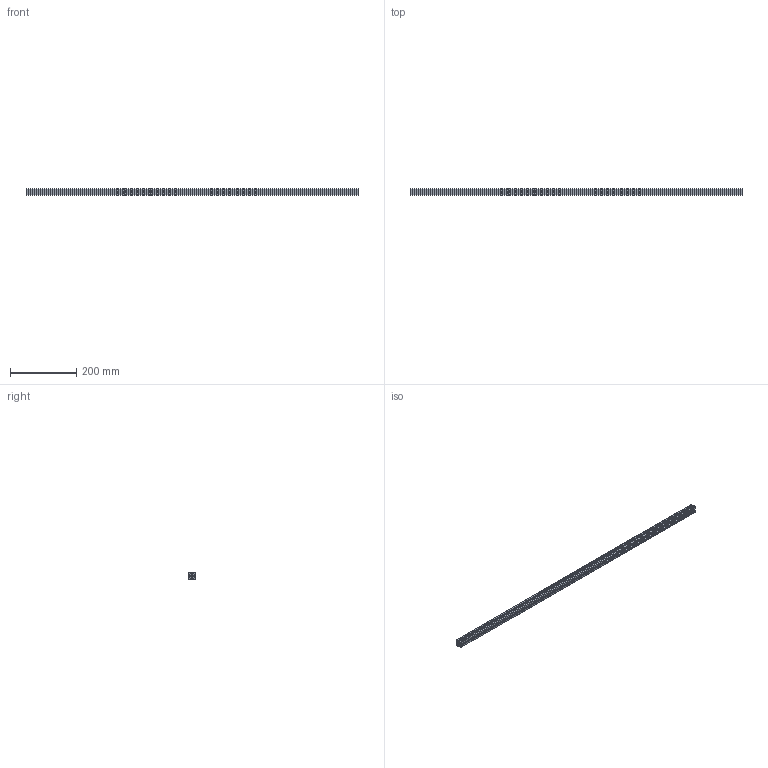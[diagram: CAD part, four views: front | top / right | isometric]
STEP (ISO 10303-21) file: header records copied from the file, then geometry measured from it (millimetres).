
FILE_DESCRIPTION (( 'STEP AP203' ), '1' );
FILE_NAME ('10406_PRO_20x20_1N.STEP', '2016-03-02T13:20:16', ( '' ), ( '' ), 'SwSTEP 2.0', 'SolidWorks 2015', '' );
FILE_SCHEMA (( 'CONFIG_CONTROL_DESIGN' ));
Length unit declared in the file: millimetre
Products named in the file (1): 10406_PRO_20x20_1N
Bounding box: 1000 x 20 x 20 mm (x, y, z)
Volume: 184755.4 mm3; surface area: 179602.1 mm2
Topology: 1 solids, 1 shells, 78 faces, 228 edges, 152 vertices
Faces by surface type: cylinder 40, plane 38
Entity records: 2697 total; most frequent: DIRECTION 466, CARTESIAN_POINT 459, ORIENTED_EDGE 456, EDGE_CURVE 228, AXIS2_PLACEMENT_3D 159, VERTEX_POINT 152, LINE 148, VECTOR 148
